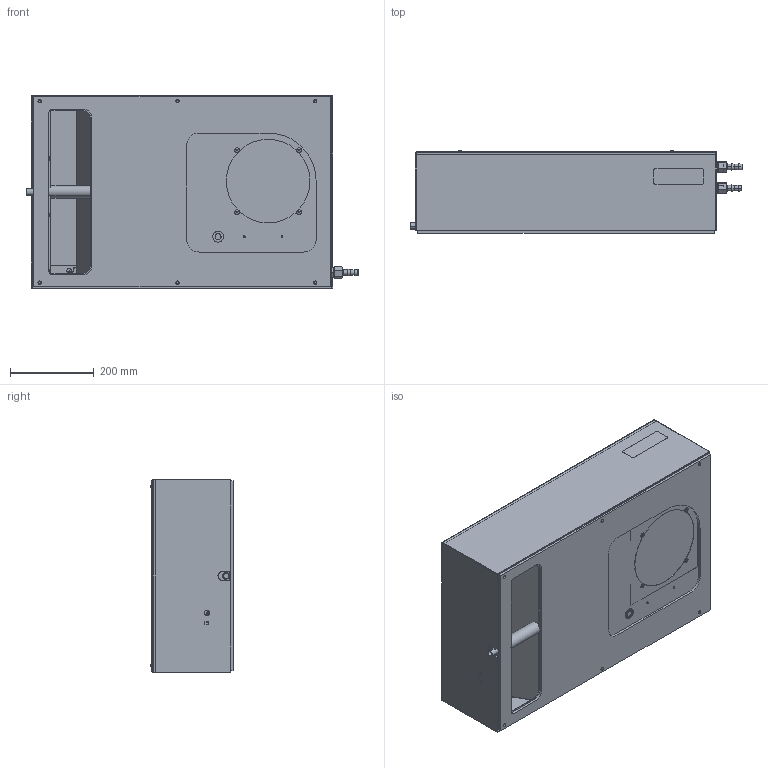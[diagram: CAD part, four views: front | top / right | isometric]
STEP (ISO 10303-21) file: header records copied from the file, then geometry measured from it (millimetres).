
FILE_DESCRIPTION (( 'STEP AP214' ), '1' );
FILE_NAME ('PWD 5402.STEP', '2011-04-04T06:33:27', ( ' ' ), ( ' ' ), 'SwSTEP 2.0', 'SolidWorks 2010', '' );
FILE_SCHEMA (( 'AUTOMOTIVE_DESIGN' ));
Length unit declared in the file: millimetre
Products named in the file (1): PWD 5402
Bounding box: 794.87 x 197.43 x 464.2 mm (x, y, z)
Volume: 5592326.1 mm3; surface area: 4796298.2 mm2
Topology: 85 solids, 85 shells, 2595 faces, 6481 edges, 4146 vertices
Faces by surface type: plane 1335, cylinder 579, bspline 325, sphere 156, cone 148, torus 52
Entity records: 122762 total; most frequent: CARTESIAN_POINT 33216, ORIENTED_EDGE 12686, DIRECTION 11695, EDGE_CURVE 6343, VERTEX_POINT 4068, AXIS2_PLACEMENT_3D 3971, LINE 3753, VECTOR 3753
